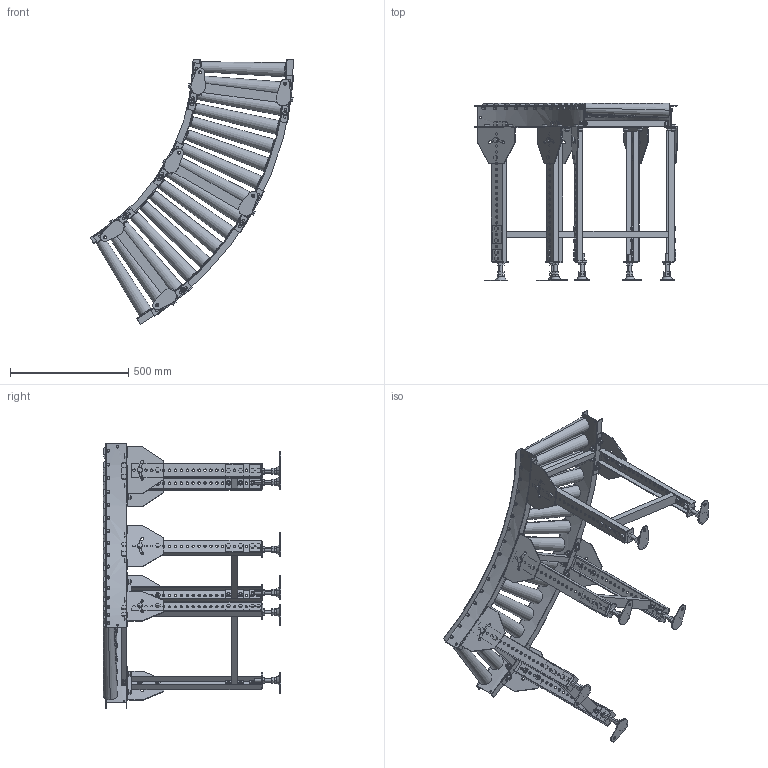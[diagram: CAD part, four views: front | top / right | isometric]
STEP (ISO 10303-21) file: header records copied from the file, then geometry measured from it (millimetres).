
FILE_DESCRIPTION (( 'STEP AP214' ), '1' );
FILE_NAME ('MRT-C9-350-75-60.STEP', '2022-09-28T01:54:38', ( '' ), ( '' ), 'SwSTEP 2.0', 'SolidWorks 2017', '' );
FILE_SCHEMA (( 'AUTOMOTIVE_DESIGN' ));
Length unit declared in the file: millimetre
Products named in the file (1): MRT-C9-350-75-60
Bounding box: 860.48 x 750 x 1121.5 mm (x, y, z)
Volume: 17070825.7 mm3; surface area: 3198980.6 mm2
Topology: 28 solids, 58 shells, 3218 faces, 7716 edges, 4856 vertices
Faces by surface type: plane 2298, cylinder 876, cone 44
Entity records: 135444 total; most frequent: CARTESIAN_POINT 22766, DIRECTION 16450, ORIENTED_EDGE 15432, EDGE_CURVE 7716, AXIS2_PLACEMENT_3D 5737, LINE 4976, VECTOR 4976, VERTEX_POINT 4856
